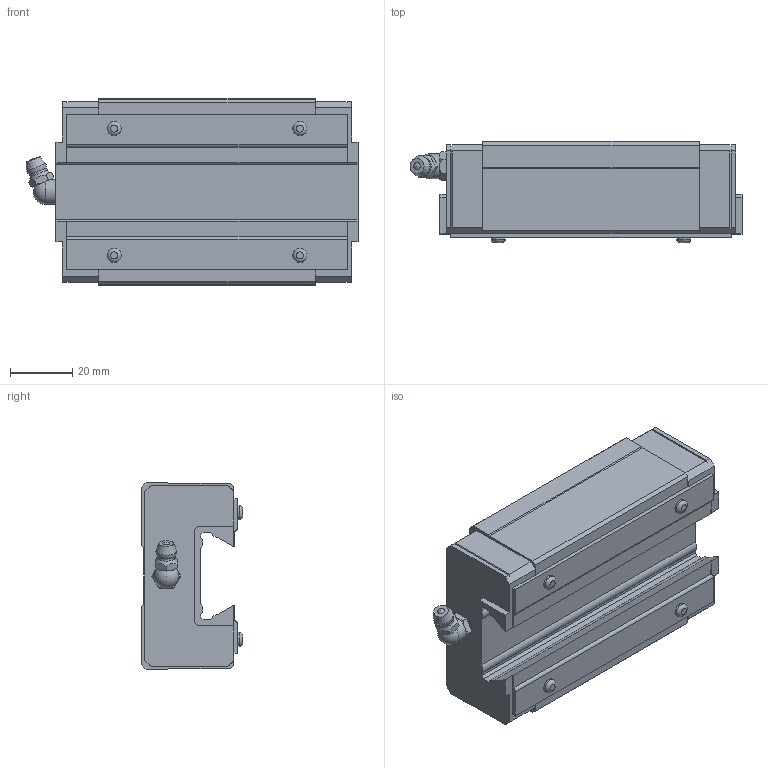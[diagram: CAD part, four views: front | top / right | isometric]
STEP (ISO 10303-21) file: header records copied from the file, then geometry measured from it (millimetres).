
FILE_DESCRIPTION(/* description */ ('STEP AP214'),/* implementation_level */ '2;1');
FILE_NAME(/* name */ 'SR30W1SS(GK) BLOCK(B-M6F1)',/* time_stamp */ '2023-06-01T09:46:37+02:00',/* author */ ('License CC BY-ND 4.0'),/* organization */ ('CADENAS'),/* preprocessor_version */ 'ST-DEVELOPER v19.3',/* originating_system */ 'PARTsolutions',/* authorisation */ ' ');
FILE_SCHEMA (('AUTOMOTIVE_DESIGN {1 0 10303 214 3 1 1}'));
Length unit declared in the file: millimetre
Products named in the file (3): SR30W1SS(GK) BLOCK(B-M6F1); SR-B-M6F_gnj; SR30WSSB-M6F1 S
Assembly tree (2 placements, depth 2):
  SR30W1SS(GK) BLOCK(B-M6F1)
    SR-B-M6F_gnj
    SR30WSSB-M6F1 S
Bounding box: 106.4 x 32.5 x 60 mm (x, y, z)
Volume: 137311.1 mm3; surface area: 25306.7 mm2
Topology: 2 solids, 2 shells, 166 faces, 440 edges, 283 vertices
Faces by surface type: plane 118, cone 21, cylinder 18, torus 6, sphere 3
Full cylindrical faces by diameter (mm): 4.5 x4, 4.917 x2, 6 x1, 6.647 x4, 8 x1
Entity records: 4925 total; most frequent: CARTESIAN_POINT 938, ORIENTED_EDGE 784, DIRECTION 772, EDGE_CURVE 392, LINE 302, VECTOR 302, VERTEX_POINT 277, AXIS2_PLACEMENT_3D 235
